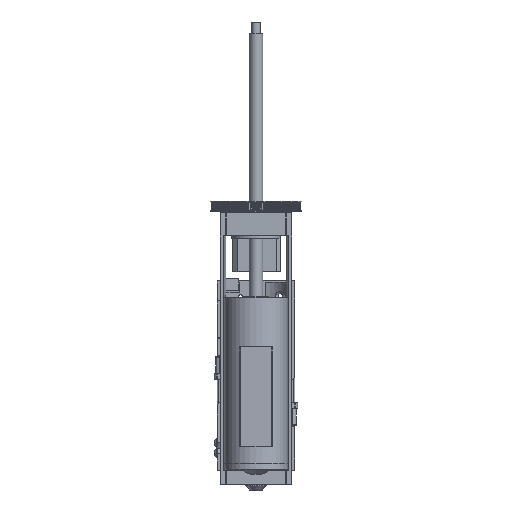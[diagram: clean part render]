
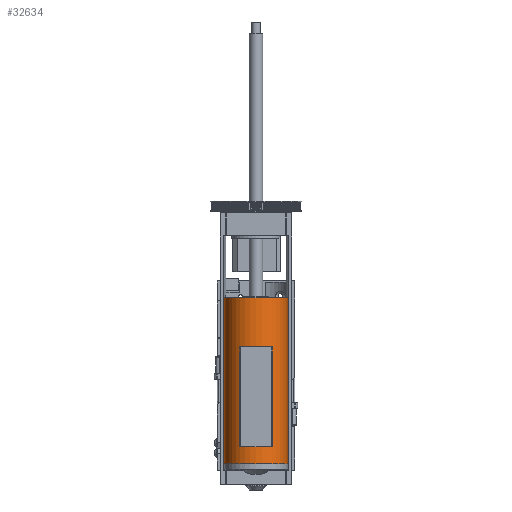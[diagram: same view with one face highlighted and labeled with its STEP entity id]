
A CAD part, front view. The second image highlights one B-rep face of the part: STEP entity #32634.
In plain terms, the highlighted cylindrical face has radius 28.6 mm (diameter 57.2 mm), a full revolution.
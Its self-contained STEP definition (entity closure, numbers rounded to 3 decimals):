
#3602=FACE_OUTER_BOUND('',#5549,.T.);
#5549=EDGE_LOOP('',(#23219,#23220,#23221,#23222));
#7710=LINE('',#66712,#9813);
#9813=VECTOR('',#38897,28.6);
#11538=CIRCLE('',#34842,28.6);
#11539=CIRCLE('',#34843,28.6);
#13113=VERTEX_POINT('',#66709);
#13114=VERTEX_POINT('',#66711);
#16864=EDGE_CURVE('',#13113,#13113,#11538,.T.);
#16865=EDGE_CURVE('',#13113,#13114,#7710,.T.);
#16866=EDGE_CURVE('',#13114,#13114,#11539,.T.);
#23219=ORIENTED_EDGE('',*,*,#16864,.F.);
#23220=ORIENTED_EDGE('',*,*,#16865,.T.);
#23221=ORIENTED_EDGE('',*,*,#16866,.T.);
#23222=ORIENTED_EDGE('',*,*,#16865,.F.);
#31277=CYLINDRICAL_SURFACE('',#34841,28.6);
#32634=ADVANCED_FACE('',(#3602),#31277,.T.);
#34841=AXIS2_PLACEMENT_3D('',#66708,#38893,#38894);
#34842=AXIS2_PLACEMENT_3D('',#66710,#38895,#38896);
#34843=AXIS2_PLACEMENT_3D('',#66713,#38898,#38899);
#38893=DIRECTION('center_axis',(0.,0.,1.));
#38894=DIRECTION('ref_axis',(0.,1.,0.));
#38895=DIRECTION('center_axis',(0.,0.,1.));
#38896=DIRECTION('ref_axis',(1.,0.,0.));
#38897=DIRECTION('',(0.,0.,-1.));
#38898=DIRECTION('center_axis',(0.,0.,1.));
#38899=DIRECTION('ref_axis',(1.,0.,0.));
#66708=CARTESIAN_POINT('Origin',(35.,-40.,82.443));
#66709=CARTESIAN_POINT('',(35.,-68.6,157.055));
#66710=CARTESIAN_POINT('Origin',(35.,-40.,157.055));
#66711=CARTESIAN_POINT('',(35.,-68.6,7.83));
#66712=CARTESIAN_POINT('',(35.,-68.6,82.443));
#66713=CARTESIAN_POINT('Origin',(35.,-40.,7.83));
